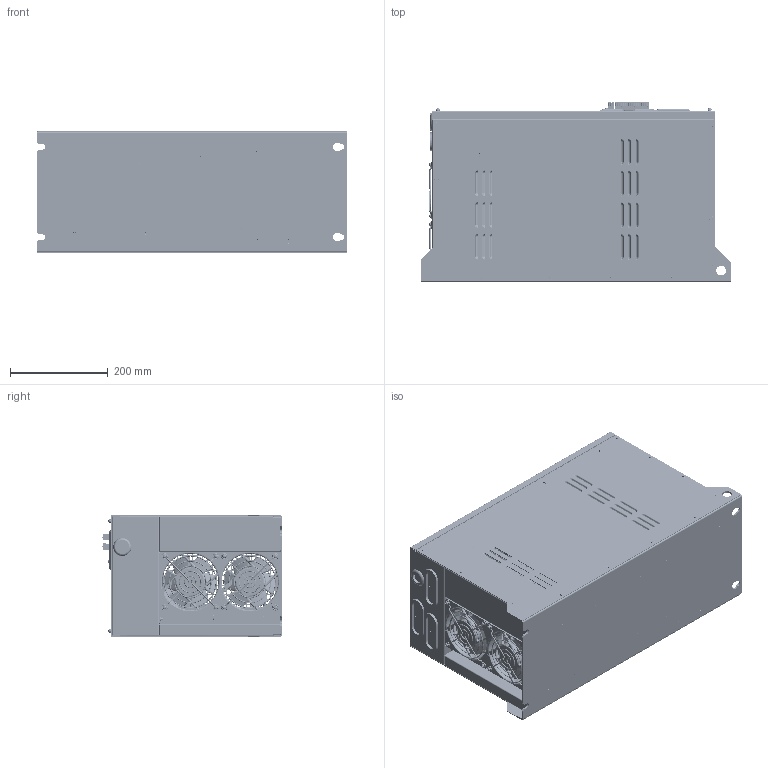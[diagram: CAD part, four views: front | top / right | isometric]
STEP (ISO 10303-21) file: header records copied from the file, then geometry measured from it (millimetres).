
FILE_DESCRIPTION((''),'2;1');
FILE_NAME('01021212_ASM','2024-03-28T',('admin'),(''),'PRO/ENGINEER BY PARAMETRIC TECHNOLOGY CORPORATION, 2014320','PRO/ENGINEER BY PARAMETRIC TECHNOLOGY CORPORATION, 2014320','');
FILE_SCHEMA(('CONFIG_CONTROL_DESIGN'));
Products named in the file (79): 50010417-01-01; S-M5-1; B-M5-2; BSO-M4-16XIN-FEIBIAO; 50010417-01-01_ASM; 50010417-01-02; S-M4-1; 50010417-01-02_ASM; 50010417-01-03; BSO-M4-24XIN-FEIBIAO; 50010417-01-03_ASM; 50010417-01-04; BSO-M4-8XIN-FEIBIAO; FH-M6-8; 50010417-01-04_ASM; 50010417-01-05; BSO-M4-10XIN-FEIBIAO; 50010417-01-05_ASM; 50010417-01-06; 50010417-01-06_ASM; 50010417-01-07; 50010417-01-08; 50010417-01-08_ASM; 50010417-01-09; 50010417-01-09_ASM; 50010417-01-10; S-M6-1; 50010417-01-10_ASM; 50010417-01-11; REVIT_4MM_4; GB12617-90_4X8_10_2; 50010417-01-00_ASM; 50010417-02; 50010417-02_ASM; 50010417-03; 50010417-03_ASM; 50010417-04; 50010417-04_ASM; 50010417-05; 50010417-06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
Assembly tree (429 placements, depth 5):
  01021212_ASM
    50010417-00_ASM
      50010417-01-00_ASM
        50010417-01-01_ASM
          50010417-01-01
          S-M5-1  x7
          B-M5-2  x3
          BSO-M4-16XIN-FEIBIAO  x2
        50010417-01-02_ASM
          50010417-01-02
          S-M4-1  x8
          S-M5-1  x8
        50010417-01-03_ASM
          50010417-01-03
          S-M5-1  x3
          S-M4-1  x16
          BSO-M4-16XIN-FEIBIAO  x10
          BSO-M4-24XIN-FEIBIAO  x5
        50010417-01-04_ASM
          50010417-01-04
          BSO-M4-8XIN-FEIBIAO  x2
          FH-M6-8  x3
        50010417-01-05_ASM
          50010417-01-05
          S-M4-1  x6
          BSO-M4-10XIN-FEIBIAO  x8
        50010417-01-06_ASM
          50010417-01-06
          S-M5-1  x7
        50010417-01-07
        50010417-01-08_ASM
          50010417-01-08
          S-M5-1  x18
          S-M4-1  x3
        50010417-01-09_ASM
          50010417-01-09
          S-M5-1  x4
          S-M4-1  x9
        50010417-01-10_ASM
          50010417-01-10
          S-M6-1  x2
          S-M5-1  x2
        50010417-01-11  x2
        REVIT_4MM_4  x9
        GB12617-90_4X8_10_2  x84
      50010417-02_ASM
        50010417-02
        S-M5-1  x2
      50010417-03_ASM
        50010417-03
        S-M5-1  x8
        S-M4-1  x4
      50010417-04_ASM
        50010417-04
        S-M4-1  x4
        S-M5-1  x2
      50010417-05
      50010417-06
      50010417-07
    03010418
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Bounding box: 635 x 369.1 x 250 mm (x, y, z)
Volume: 3929506.4 mm3; surface area: 3983861.6 mm2
Topology: 426 solids, 687 shells, 37936 faces, 99817 edges, 63864 vertices
Faces by surface type: plane 23670, cylinder 9664, torus 1799, cone 1218, sphere 620, bspline 542, extrusion 361, revolution 62
Entity records: 950486 total; most frequent: CARTESIAN_POINT 196659, ORIENTED_EDGE 158246, DIRECTION 152622, EDGE_CURVE 79201, VECTOR 57490, LINE 57143, VERTEX_POINT 50994, AXIS2_PLACEMENT_3D 47551
